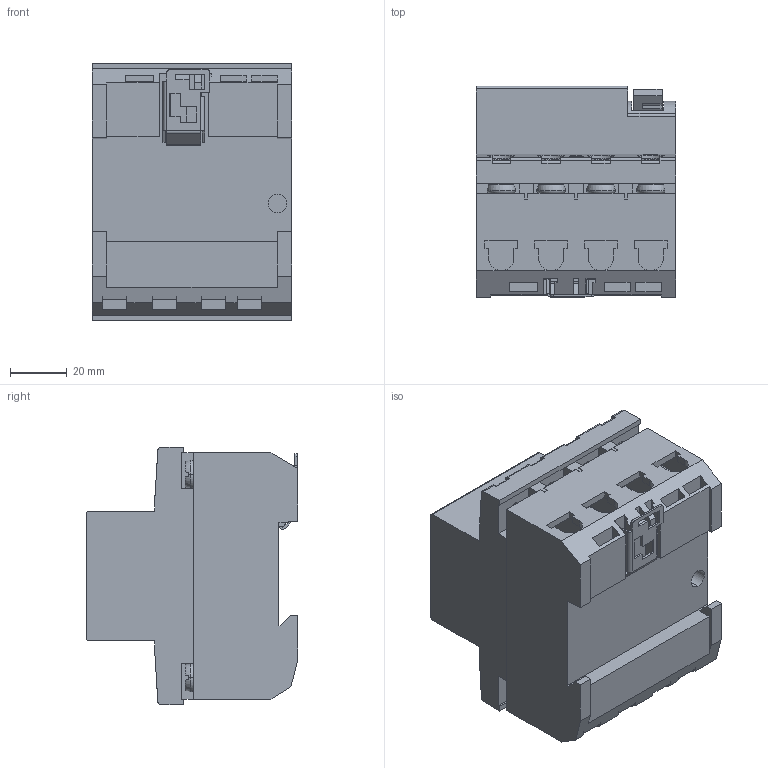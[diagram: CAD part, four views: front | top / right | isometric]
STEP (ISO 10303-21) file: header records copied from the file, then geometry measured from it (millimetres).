
FILE_DESCRIPTION (( 'STEP AP214' ), '1' );
FILE_NAME ('ÂÄ1-63 4ï ýëåêòðîíèêà.STEP', '2022-11-18T10:35:06', ( '' ), ( '' ), 'SwSTEP 2.0', 'SolidWorks 2018', '' );
FILE_SCHEMA (( 'AUTOMOTIVE_DESIGN' ));
Length unit declared in the file: millimetre
Products named in the file (7): Ðó÷êà ÂÄ1-63; 扱闀罻 蠈嚦 薩1-63(27.09.2022); ÂÄ1-63 4ï ýëåêòðîíèêà; Çàùåëêà 2ï ÂÄ1-63; Êîðïóñ 4ï ÂÄ1-63 Changan (27.09.2022); Êðûøêà 4ï ÂÄ1-63 Changan (27.09.2022); 鎔艜 (臍47-29) 14.02.2022
Assembly tree (13 placements, depth 2):
  ÂÄ1-63 4ï ýëåêòðîíèêà
    Êîðïóñ 4ï ÂÄ1-63 Changan (27.09.2022)
    Êðûøêà 4ï ÂÄ1-63 Changan (27.09.2022)
    鎔艜 (臍47-29) 14.02.2022  x8
    扱闀罻 蠈嚦 薩1-63(27.09.2022)
    Ðó÷êà ÂÄ1-63
    Çàùåëêà 2ï ÂÄ1-63
Bounding box: 70 x 74.3 x 90.6 mm (x, y, z)
Volume: 311923.7 mm3; surface area: 67238.2 mm2
Topology: 13 solids, 13 shells, 968 faces, 2614 edges, 1698 vertices
Faces by surface type: plane 792, cylinder 143, torus 32, bspline 1
Entity records: 20928 total; most frequent: CARTESIAN_POINT 3848, ORIENTED_EDGE 3604, DIRECTION 3288, EDGE_CURVE 1802, LINE 1552, VECTOR 1552, VERTEX_POINT 1180, AXIS2_PLACEMENT_3D 868
